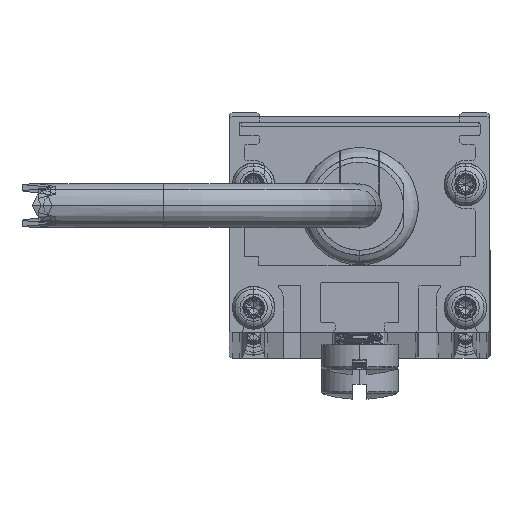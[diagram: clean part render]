
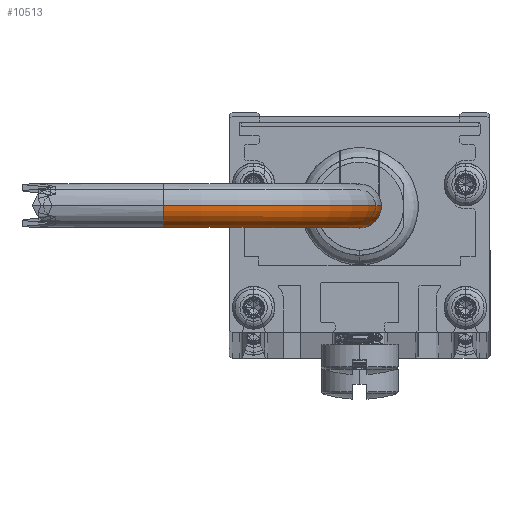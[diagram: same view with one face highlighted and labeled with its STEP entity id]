
A CAD part, top view. The second image highlights one B-rep face of the part: STEP entity #10513.
In plain terms, the highlighted toroidal (fillet/blend) face has major radius 25.4 mm and minor radius 2.845 mm.
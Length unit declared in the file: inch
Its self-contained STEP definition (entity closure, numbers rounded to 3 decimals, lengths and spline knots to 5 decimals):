
#38 = VERTEX_POINT ( 'NONE', #14034 ) ;
#108 = ORIENTED_EDGE ( 'NONE', *, *, #3782, .T. ) ;
#470 = CARTESIAN_POINT ( 'NONE',  ( 1., 0., -2. ) ) ;
#1729 = CIRCLE ( 'NONE', #16857, 0.112 ) ;
#1821 = DIRECTION ( 'NONE',  ( 1., 0., 0. ) ) ;
#3148 = DIRECTION ( 'NONE',  ( 0., 0., -1. ) ) ;
#3213 = EDGE_LOOP ( 'NONE', ( #15821, #108, #12572, #15861 ) ) ;
#3282 = DIRECTION ( 'NONE',  ( 0., -1., 0. ) ) ;
#3413 = DIRECTION ( 'NONE',  ( 0., -1., 0. ) ) ;
#3782 = EDGE_CURVE ( 'NONE', #13490, #11356, #12734, .T. ) ;
#4026 = CARTESIAN_POINT ( 'NONE',  ( 1., 0., -2.112 ) ) ;
#4418 = EDGE_CURVE ( 'NONE', #13490, #38, #17541, .T. ) ;
#4820 = DIRECTION ( 'NONE',  ( 0., 0., 1. ) ) ;
#5830 = DIRECTION ( 'NONE',  ( 0., 0., 1. ) ) ;
#6832 = AXIS2_PLACEMENT_3D ( 'NONE', #15946, #7180, #3148 ) ;
#7180 = DIRECTION ( 'NONE',  ( 0., -1., 0. ) ) ;
#10513 = ADVANCED_FACE ( 'NONE', ( #16244 ), #12394, .T. ) ;
#11356 = VERTEX_POINT ( 'NONE', #4026 ) ;
#11562 = EDGE_CURVE ( 'NONE', #11356, #17588, #1729, .T. ) ;
#12018 = CARTESIAN_POINT ( 'NONE',  ( 1., 0., -1. ) ) ;
#12073 = CARTESIAN_POINT ( 'NONE',  ( 1., 0., -1. ) ) ;
#12172 = DIRECTION ( 'NONE',  ( -1., 0., 0. ) ) ;
#12394 = TOROIDAL_SURFACE ( 'NONE', #6832, 1., 0.112 ) ;
#12572 = ORIENTED_EDGE ( 'NONE', *, *, #11562, .T. ) ;
#12734 = CIRCLE ( 'NONE', #12833, 1.112 ) ;
#12821 = CIRCLE ( 'NONE', #17747, 0.888 ) ;
#12833 = AXIS2_PLACEMENT_3D ( 'NONE', #12018, #3282, #15082 ) ;
#13151 = CARTESIAN_POINT ( 'NONE',  ( 0., 0., -1. ) ) ;
#13208 = DIRECTION ( 'NONE',  ( 1., 0., 0. ) ) ;
#13490 = VERTEX_POINT ( 'NONE', #16213 ) ;
#14034 = CARTESIAN_POINT ( 'NONE',  ( 0.112, 0., -1. ) ) ;
#14094 = EDGE_CURVE ( 'NONE', #38, #17588, #12821, .T. ) ;
#15082 = DIRECTION ( 'NONE',  ( 1., 0., 0. ) ) ;
#15555 = CARTESIAN_POINT ( 'NONE',  ( 1., 0., -1.888 ) ) ;
#15821 = ORIENTED_EDGE ( 'NONE', *, *, #4418, .F. ) ;
#15861 = ORIENTED_EDGE ( 'NONE', *, *, #14094, .F. ) ;
#15946 = CARTESIAN_POINT ( 'NONE',  ( 1., 0., -1. ) ) ;
#16213 = CARTESIAN_POINT ( 'NONE',  ( -0.112, 0., -1. ) ) ;
#16244 = FACE_OUTER_BOUND ( 'NONE', #3213, .T. ) ;
#16857 = AXIS2_PLACEMENT_3D ( 'NONE', #470, #12172, #4820 ) ;
#17541 = CIRCLE ( 'NONE', #18458, 0.112 ) ;
#17588 = VERTEX_POINT ( 'NONE', #15555 ) ;
#17747 = AXIS2_PLACEMENT_3D ( 'NONE', #12073, #3413, #1821 ) ;
#18458 = AXIS2_PLACEMENT_3D ( 'NONE', #13151, #5830, #13208 ) ;
